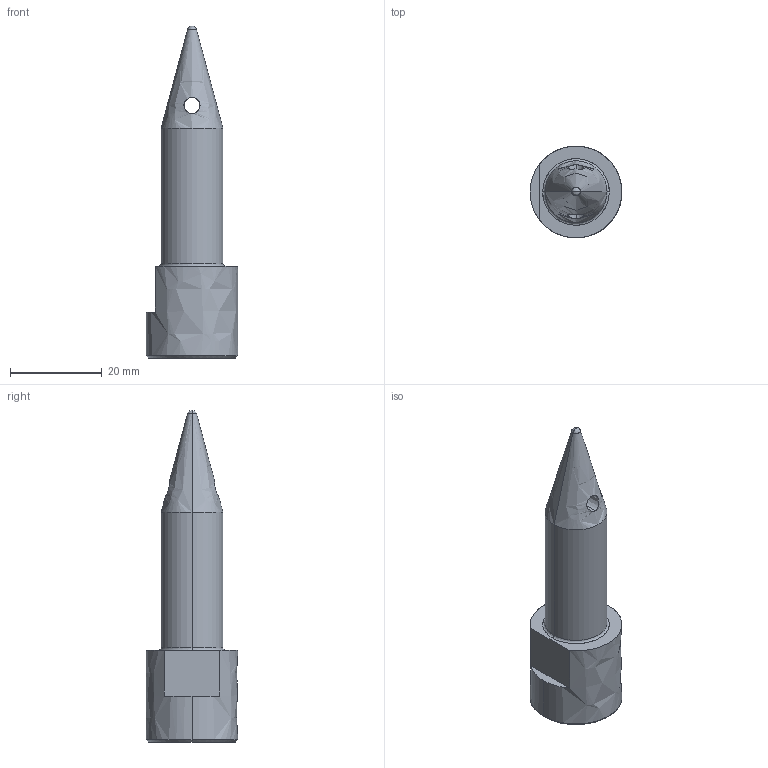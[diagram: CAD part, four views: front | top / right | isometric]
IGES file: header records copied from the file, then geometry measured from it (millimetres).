
Global section: file name: E:\UnigraphicsGraphicData\MISUMI_PRESS-PARTS\IGES\3d_sdklh20-p13.50-b30_02965_r00.igs; native system: NX V5.0; preprocessor: UGS NX IGES V5.0; author: MISUMI; date: 20110105.162516; units: millimetre
Bounding box: 20 x 20.02 x 72.33 mm (x, y, z)
Surface area: 3620.5 mm2 (no closed solid volume)
Topology: 0 solids, 0 shells, 18 faces, 120 edges, 118 vertices
Faces by surface type: bspline 18
